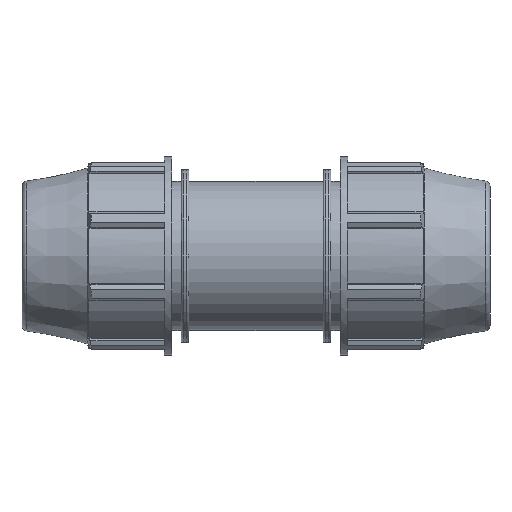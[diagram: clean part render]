
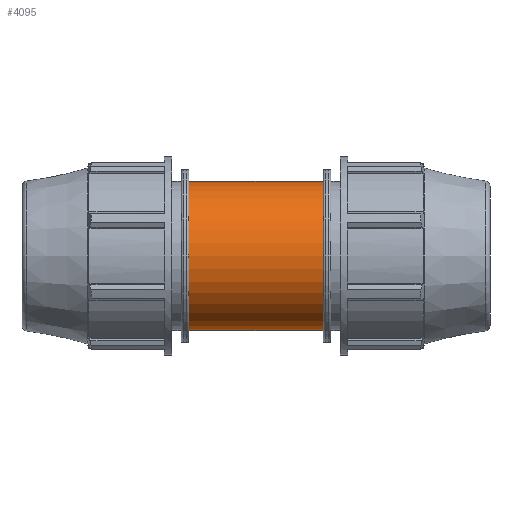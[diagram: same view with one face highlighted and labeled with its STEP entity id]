
A CAD part, front view. The second image highlights one B-rep face of the part: STEP entity #4095.
In plain terms, the highlighted cylindrical face has radius 42.386 mm (diameter 84.772 mm), a full revolution.
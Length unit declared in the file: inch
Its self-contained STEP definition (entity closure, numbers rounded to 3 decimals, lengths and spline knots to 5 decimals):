
#106=FACE_BOUND('',#387,.T.);
#123=B_SPLINE_CURVE_WITH_KNOTS('',3,(#5968,#5969,#5970,#5971,#5972,#5973,
#5974,#5975,#5976,#5977,#5978,#5979,#5980,#5981,#5982,#5983,#5984,#5985),
 .UNSPECIFIED.,.F.,.F.,(4,2,2,2,2,2,2,2,4),(0.,0.45769,0.91537,
1.37306,1.83074,2.28636,2.74198,3.1976,
3.65322),.UNSPECIFIED.);
#124=B_SPLINE_CURVE_WITH_KNOTS('',3,(#5986,#5987,#5988,#5989,#5990,#5991,
#5992,#5993,#5994,#5995,#5996,#5997,#5998,#5999,#6000,#6001,#6002,#6003,
#6004,#6005,#6006,#6007,#6008,#6009,#6010,#6011,#6012,#6013,#6014,#6015,
#6016,#6017,#6018,#6019,#6020,#6021,#6022,#6023,#6024,#6025,#6026,#6027,
#6028,#6029,#6030,#6031,#6032,#6033,#6034,#6035),.UNSPECIFIED.,.F.,.F.,
(4,2,2,2,2,2,2,2,2,2,2,2,2,2,2,2,2,2,2,2,2,2,2,2,4),(3.65322,4.10884,
4.56445,5.02007,5.47569,5.93338,6.39106,
6.84875,7.30644,7.76412,8.22181,8.67949,
9.13718,9.5928,10.04842,10.50403,10.95965,
11.41527,11.87089,12.32651,12.78213,13.23981,
13.6975,14.15518,14.61287),.UNSPECIFIED.);
#134=CYLINDRICAL_SURFACE('',#4329,1.66875);
#178=FACE_OUTER_BOUND('',#386,.T.);
#386=EDGE_LOOP('',(#2522,#2523,#2524,#2525,#2526,#2527));
#387=EDGE_LOOP('',(#2528,#2529));
#615=CIRCLE('',#4330,1.66875);
#616=CIRCLE('',#4331,1.66875);
#617=CIRCLE('',#4332,1.66875);
#618=CIRCLE('',#4333,1.66875);
#835=LINE('',#5962,#1155);
#1155=VECTOR('',#4779,1.66875);
#1481=VERTEX_POINT('',#5957);
#1482=VERTEX_POINT('',#5958);
#1483=VERTEX_POINT('',#5961);
#1484=VERTEX_POINT('',#5963);
#1485=VERTEX_POINT('',#5966);
#1486=VERTEX_POINT('',#5967);
#1905=EDGE_CURVE('',#1481,#1482,#615,.T.);
#1906=EDGE_CURVE('',#1482,#1481,#616,.T.);
#1907=EDGE_CURVE('',#1482,#1483,#835,.T.);
#1908=EDGE_CURVE('',#1483,#1484,#617,.T.);
#1909=EDGE_CURVE('',#1484,#1483,#618,.T.);
#1910=EDGE_CURVE('',#1485,#1486,#123,.T.);
#1911=EDGE_CURVE('',#1486,#1485,#124,.T.);
#2522=ORIENTED_EDGE('',*,*,#1905,.F.);
#2523=ORIENTED_EDGE('',*,*,#1906,.F.);
#2524=ORIENTED_EDGE('',*,*,#1907,.T.);
#2525=ORIENTED_EDGE('',*,*,#1908,.T.);
#2526=ORIENTED_EDGE('',*,*,#1909,.T.);
#2527=ORIENTED_EDGE('',*,*,#1907,.F.);
#2528=ORIENTED_EDGE('',*,*,#1910,.F.);
#2529=ORIENTED_EDGE('',*,*,#1911,.F.);
#4095=ADVANCED_FACE('',(#178,#106),#134,.T.);
#4329=AXIS2_PLACEMENT_3D('',#5956,#4773,#4774);
#4330=AXIS2_PLACEMENT_3D('',#5959,#4775,#4776);
#4331=AXIS2_PLACEMENT_3D('',#5960,#4777,#4778);
#4332=AXIS2_PLACEMENT_3D('',#5964,#4780,#4781);
#4333=AXIS2_PLACEMENT_3D('',#5965,#4782,#4783);
#4773=DIRECTION('center_axis',(1.,0.,0.));
#4774=DIRECTION('ref_axis',(0.,1.,0.));
#4775=DIRECTION('center_axis',(1.,0.,0.));
#4776=DIRECTION('ref_axis',(0.,0.,-1.));
#4777=DIRECTION('center_axis',(1.,0.,0.));
#4778=DIRECTION('ref_axis',(0.,0.,-1.));
#4779=DIRECTION('',(-1.,0.,0.));
#4780=DIRECTION('center_axis',(1.,0.,0.));
#4781=DIRECTION('ref_axis',(0.,0.,-1.));
#4782=DIRECTION('center_axis',(1.,0.,0.));
#4783=DIRECTION('ref_axis',(0.,0.,-1.));
#5956=CARTESIAN_POINT('Origin',(1.06445,0.,0.));
#5957=CARTESIAN_POINT('',(1.5007,1.66875,0.));
#5958=CARTESIAN_POINT('',(1.5007,-1.66875,0.));
#5959=CARTESIAN_POINT('Origin',(1.5007,0.,0.));
#5960=CARTESIAN_POINT('Origin',(1.5007,0.,0.));
#5961=CARTESIAN_POINT('',(-1.5007,-1.66875,0.));
#5962=CARTESIAN_POINT('',(1.06445,-1.66875,0.));
#5963=CARTESIAN_POINT('',(-1.5007,1.66875,0.));
#5964=CARTESIAN_POINT('Origin',(-1.5007,0.,0.));
#5965=CARTESIAN_POINT('Origin',(-1.5007,0.,0.));
#5966=CARTESIAN_POINT('',(0.,1.38558,0.93));
#5967=CARTESIAN_POINT('',(0.93,1.66875,0.));
#5968=CARTESIAN_POINT('Ctrl Pts',(0.,1.38558,
0.93));
#5969=CARTESIAN_POINT('Ctrl Pts',(0.06006,1.38558,0.93));
#5970=CARTESIAN_POINT('Ctrl Pts',(0.12157,1.3896,0.92409));
#5971=CARTESIAN_POINT('Ctrl Pts',(0.24286,1.40542,0.89986));
#5972=CARTESIAN_POINT('Ctrl Pts',(0.30266,1.41718,0.88154));
#5973=CARTESIAN_POINT('Ctrl Pts',(0.41662,1.44581,0.83375));
#5974=CARTESIAN_POINT('Ctrl Pts',(0.47091,1.46266,0.80424));
#5975=CARTESIAN_POINT('Ctrl Pts',(0.57108,1.49792,0.7365));
#5976=CARTESIAN_POINT('Ctrl Pts',(0.61696,1.51629,0.69825));
#5977=CARTESIAN_POINT('Ctrl Pts',(0.69807,1.55106,0.61715));
#5978=CARTESIAN_POINT('Ctrl Pts',(0.73629,1.56878,0.57135));
#5979=CARTESIAN_POINT('Ctrl Pts',(0.8041,1.60173,0.47115));
#5980=CARTESIAN_POINT('Ctrl Pts',(0.8337,1.61693,0.41674));
#5981=CARTESIAN_POINT('Ctrl Pts',(0.8816,1.64214,0.30251));
#5982=CARTESIAN_POINT('Ctrl Pts',(0.89994,1.65215,0.24257));
#5983=CARTESIAN_POINT('Ctrl Pts',(0.92414,1.66546,0.12121));
#5984=CARTESIAN_POINT('Ctrl Pts',(0.93,1.66875,0.05979));
#5985=CARTESIAN_POINT('Ctrl Pts',(0.93,1.66875,0.));
#5986=CARTESIAN_POINT('Ctrl Pts',(0.93,1.66875,0.));
#5987=CARTESIAN_POINT('Ctrl Pts',(0.93,1.66875,-0.05979));
#5988=CARTESIAN_POINT('Ctrl Pts',(0.92414,1.66546,-0.12121));
#5989=CARTESIAN_POINT('Ctrl Pts',(0.89994,1.65215,-0.24257));
#5990=CARTESIAN_POINT('Ctrl Pts',(0.8816,1.64214,-0.30251));
#5991=CARTESIAN_POINT('Ctrl Pts',(0.8337,1.61693,-0.41674));
#5992=CARTESIAN_POINT('Ctrl Pts',(0.8041,1.60173,-0.47115));
#5993=CARTESIAN_POINT('Ctrl Pts',(0.73629,1.56878,-0.57135));
#5994=CARTESIAN_POINT('Ctrl Pts',(0.69807,1.55106,-0.61715));
#5995=CARTESIAN_POINT('Ctrl Pts',(0.61696,1.51629,-0.69825));
#5996=CARTESIAN_POINT('Ctrl Pts',(0.57108,1.49792,-0.7365));
#5997=CARTESIAN_POINT('Ctrl Pts',(0.47091,1.46266,-0.80424));
#5998=CARTESIAN_POINT('Ctrl Pts',(0.41662,1.44581,-0.83375));
#5999=CARTESIAN_POINT('Ctrl Pts',(0.30266,1.41718,-0.88154));
#6000=CARTESIAN_POINT('Ctrl Pts',(0.24286,1.40542,-0.89986));
#6001=CARTESIAN_POINT('Ctrl Pts',(0.12157,1.3896,-0.92409));
#6002=CARTESIAN_POINT('Ctrl Pts',(0.06006,1.38558,-0.93));
#6003=CARTESIAN_POINT('Ctrl Pts',(-0.06006,1.38558,
-0.93));
#6004=CARTESIAN_POINT('Ctrl Pts',(-0.12157,1.3896,-0.92409));
#6005=CARTESIAN_POINT('Ctrl Pts',(-0.24286,1.40542,-0.89986));
#6006=CARTESIAN_POINT('Ctrl Pts',(-0.30266,1.41718,-0.88154));
#6007=CARTESIAN_POINT('Ctrl Pts',(-0.41662,1.44581,-0.83375));
#6008=CARTESIAN_POINT('Ctrl Pts',(-0.47091,1.46266,-0.80424));
#6009=CARTESIAN_POINT('Ctrl Pts',(-0.57108,1.49792,-0.7365));
#6010=CARTESIAN_POINT('Ctrl Pts',(-0.61696,1.51629,-0.69825));
#6011=CARTESIAN_POINT('Ctrl Pts',(-0.69807,1.55106,-0.61715));
#6012=CARTESIAN_POINT('Ctrl Pts',(-0.73629,1.56878,-0.57135));
#6013=CARTESIAN_POINT('Ctrl Pts',(-0.8041,1.60173,-0.47115));
#6014=CARTESIAN_POINT('Ctrl Pts',(-0.8337,1.61693,-0.41674));
#6015=CARTESIAN_POINT('Ctrl Pts',(-0.8816,1.64214,-0.30251));
#6016=CARTESIAN_POINT('Ctrl Pts',(-0.89994,1.65215,-0.24257));
#6017=CARTESIAN_POINT('Ctrl Pts',(-0.92414,1.66546,-0.12121));
#6018=CARTESIAN_POINT('Ctrl Pts',(-0.93,1.66875,-0.05979));
#6019=CARTESIAN_POINT('Ctrl Pts',(-0.93,1.66875,0.05979));
#6020=CARTESIAN_POINT('Ctrl Pts',(-0.92414,1.66546,0.12121));
#6021=CARTESIAN_POINT('Ctrl Pts',(-0.89994,1.65215,0.24257));
#6022=CARTESIAN_POINT('Ctrl Pts',(-0.8816,1.64214,0.30251));
#6023=CARTESIAN_POINT('Ctrl Pts',(-0.8337,1.61693,0.41674));
#6024=CARTESIAN_POINT('Ctrl Pts',(-0.8041,1.60173,0.47115));
#6025=CARTESIAN_POINT('Ctrl Pts',(-0.73629,1.56878,0.57135));
#6026=CARTESIAN_POINT('Ctrl Pts',(-0.69807,1.55106,0.61715));
#6027=CARTESIAN_POINT('Ctrl Pts',(-0.61696,1.51629,0.69825));
#6028=CARTESIAN_POINT('Ctrl Pts',(-0.57108,1.49792,0.7365));
#6029=CARTESIAN_POINT('Ctrl Pts',(-0.47091,1.46266,0.80424));
#6030=CARTESIAN_POINT('Ctrl Pts',(-0.41662,1.44581,0.83375));
#6031=CARTESIAN_POINT('Ctrl Pts',(-0.30266,1.41718,0.88154));
#6032=CARTESIAN_POINT('Ctrl Pts',(-0.24286,1.40542,0.89986));
#6033=CARTESIAN_POINT('Ctrl Pts',(-0.12157,1.3896,0.92409));
#6034=CARTESIAN_POINT('Ctrl Pts',(-0.06006,1.38558,
0.93));
#6035=CARTESIAN_POINT('Ctrl Pts',(0.,1.38558,0.93));
